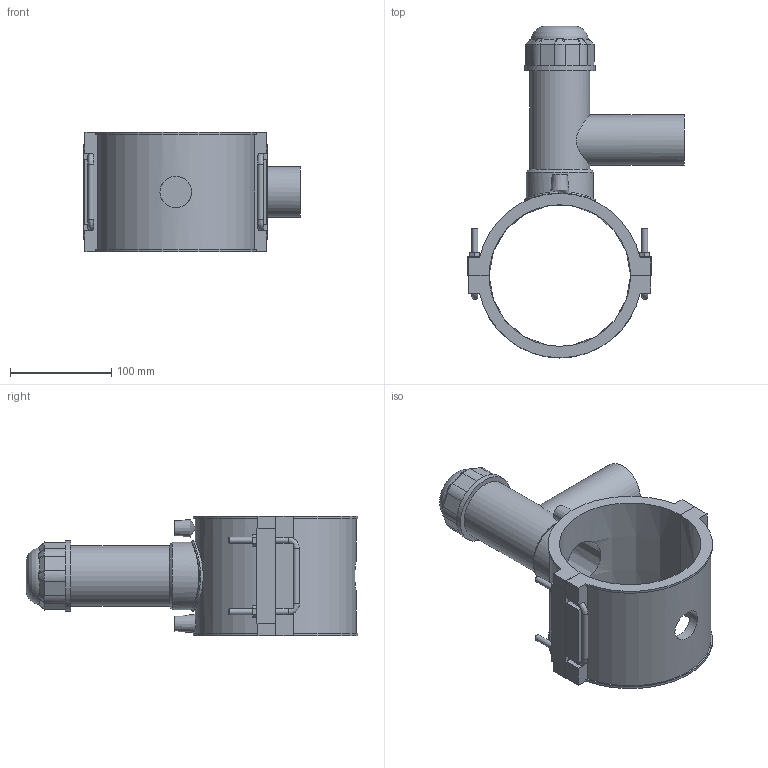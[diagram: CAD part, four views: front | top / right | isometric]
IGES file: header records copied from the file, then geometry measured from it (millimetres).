
Global section: file name: 496304140050.ipt; native system: Autodesk Inventor 2015; preprocessor: unknown; author: KIM; date: 20190124.130957; units: millimetre
Bounding box: 214 x 328.4 x 118 mm (x, y, z)
Volume: 955647.6 mm3; surface area: 229099.3 mm2
Topology: 2 solids, 2 shells, 207 faces, 522 edges, 335 vertices
Faces by surface type: plane 118, cylinder 33, bspline 21, revolution 20, cone 15
Full cylindrical faces by diameter (mm): 4 x2, 6 x10, 50 x1, 59.5 x1, 66.5 x1, 70 x2
